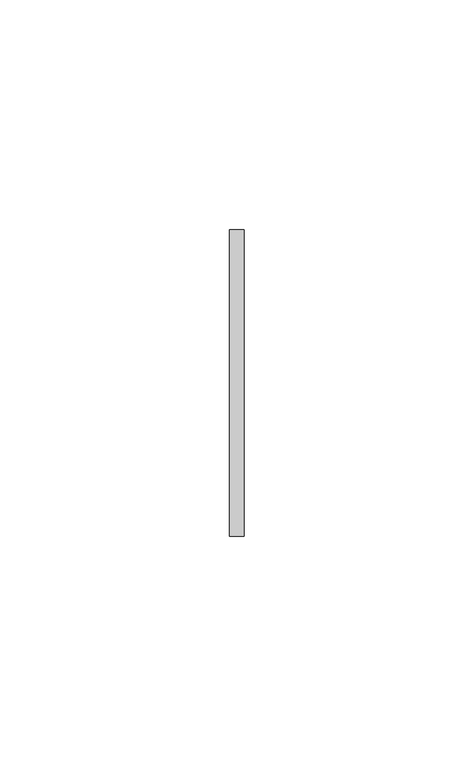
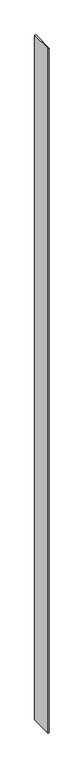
"""IFC4 building model written with IfcOpenShell, lengths in millimetres: furniture geometry, Geiger_GeigerOneCasegoods_WallEndTrim : SingleSided 2.625Wx 0.125Dx 82.625H."""

from ifc_helpers import new_model, si_unit, origin, origin_with_axes, place, context, project, spatial, polyline, outline, extrude, source, transform, mapped, element, save


def furniture_5c446557(model_context):
    return source(origin(), model_context, "Body", "SweptSolid", [
        extrude(outline(polyline([(3.175, -33.3375), (0.0, -33.3375), (0.0, 33.3375), (3.175, 33.3375), (3.175, -33.3375)])), origin_with_axes(), (0.0, 0.0, 1.0), 2098.675),
    ])


if __name__ == "__main__":
    model = new_model("IFC4")
    model_context = context("Model", 3, world=origin())
    ifc_project = project(units=[si_unit("LENGTHUNIT", "METRE", prefix="MILLI")], contexts=[model_context])
    site = spatial("IfcSite", under=ifc_project)
    building = spatial("IfcBuilding", under=site)
    placement = place(None, origin())
    furniture_shape = furniture_5c446557(model_context)
    element("IfcFurniture", 1, ObjectType="Geiger_GeigerOneCasegoods_WallEndTrim : SingleSided 2.625Wx 0.125Dx 82.625H", at=placement, inside=building, context=model_context, shape_type="MappedRepresentation", body=[
        mapped(furniture_shape, transform((0.0, 0.0, 0.0), x_axis=(1.0, 0.0, 0.0), y_axis=(0.0, 1.0, 0.0), z_axis=(0.0, 0.0, 1.0))),
    ])
    save(model, "model.ifc")
